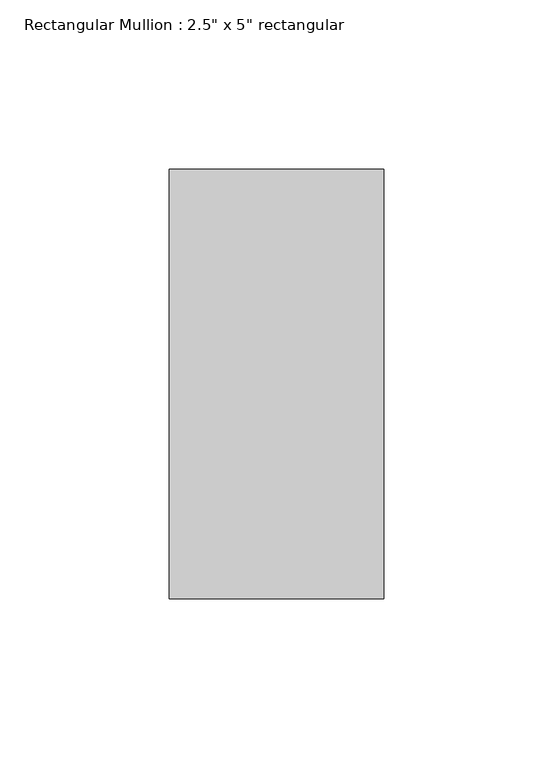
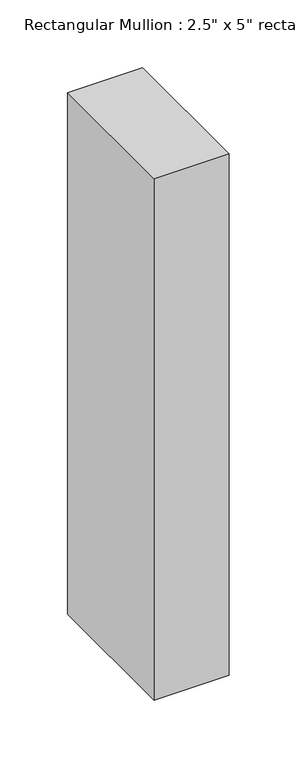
"""IFC4 building model written with IfcOpenShell, lengths in millimetres: member geometry."""

from ifc_helpers import new_model, si_unit, frame, origin, place, context, project, spatial, polyline, outline, extrude, source, transform, mapped, element, save


def member_3761eb40(model_context):
    return source(origin(), model_context, "Body", "SweptSolid", [
        extrude(outline(polyline([(31.75, 63.5), (31.75, -63.5), (-31.75, -63.5), (-31.75, 63.5), (31.75, 63.5)])), frame((0.0, 0.0, -468.0796105), z_axis=(0.0, 0.0, 1.0), x_axis=(1.0, 0.0, 0.0)), (0.0, 0.0, 1.0), 468.0796105),
    ])


if __name__ == "__main__":
    model = new_model("IFC4")
    model_context = context("Model", 3, world=origin())
    ifc_project = project(units=[si_unit("LENGTHUNIT", "METRE", prefix="MILLI")], contexts=[model_context])
    site = spatial("IfcSite", under=ifc_project)
    building = spatial("IfcBuilding", under=site)
    placement = place(None, origin())
    member_shape = member_3761eb40(model_context)
    element("IfcMember", 1, ObjectType="Rectangular Mullion : 2.5\" x 5\" rectangular", at=placement, inside=building, context=model_context, shape_type="MappedRepresentation", body=[
        mapped(member_shape, transform((0.0, 0.0, 0.0), x_axis=(1.0, 0.0, 0.0), y_axis=(0.0, 1.0, 0.0), z_axis=(0.0, 0.0, 1.0))),
    ])
    save(model, "model.ifc")
